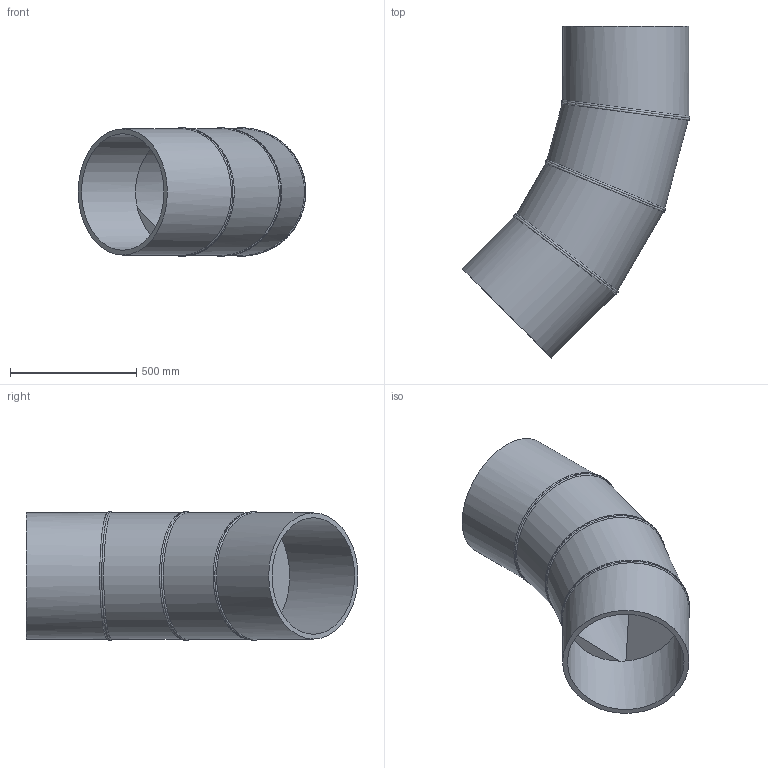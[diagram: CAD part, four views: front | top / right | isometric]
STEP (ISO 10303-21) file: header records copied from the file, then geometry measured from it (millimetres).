
FILE_DESCRIPTION(/* description */ ('Unknown'),/* implementation_level */ '2;1');
FILE_NAME(/* name */ 'Curva 45° a settore DE500 SDR26',/* time_stamp */ '2022-07-26T10:01:32+02:00',/* author */ ('Unknown'),/* organization */ ('Unknown'),/* preprocessor_version */ 'ST-DEVELOPER v18.102',/* originating_system */ 'Solid Edge',/* authorisation */ 'Unknown');
FILE_SCHEMA (('AUTOMOTIVE_DESIGN {1 0 10303 214 3 1 1}'));
Length unit declared in the file: millimetre
Products named in the file (3): Curva 45° a settore DE500 SDR26; Tubo x Gomito 45° DE500 SDR26 - 1; Tubo x Gomito 45° DE500 SDR26 - 2
Assembly tree (4 placements, depth 2):
  Curva 45° a settore DE500 SDR26
    Tubo x Gomito 45° DE500 SDR26 - 1  x2
    Tubo x Gomito 45° DE500 SDR26 - 2  x2
Bounding box: 902.03 x 1314.51 x 507.97 mm (x, y, z)
Volume: 37392542.4 mm3; surface area: 4167007.3 mm2
Topology: 4 solids, 4 shells, 34 faces, 74 edges, 48 vertices
Faces by surface type: cylinder 20, plane 8, bspline 6
Full cylindrical faces by diameter (mm): 461.8 x4, 500 x4
Entity records: 2480 total; most frequent: CARTESIAN_POINT 2078, DIRECTION 72, ORIENTED_EDGE 52, AXIS2_PLACEMENT_3D 36, EDGE_LOOP 28, FACE_BOUND 28, EDGE_CURVE 26, VERTEX_POINT 20
